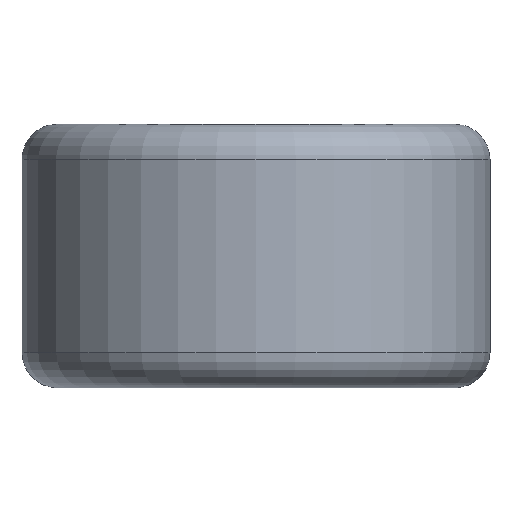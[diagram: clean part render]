
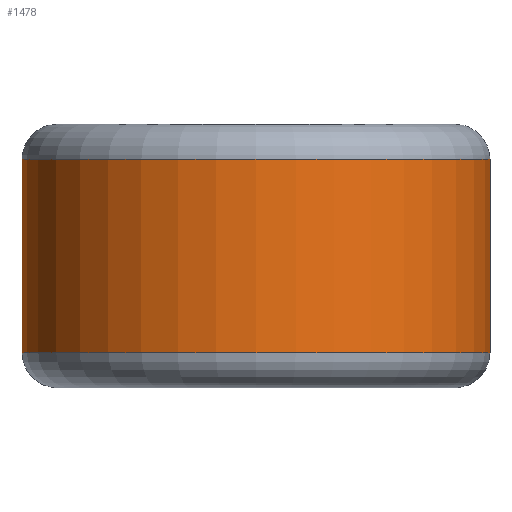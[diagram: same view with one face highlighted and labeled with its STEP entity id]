
A CAD part, left-side view. The second image highlights one B-rep face of the part: STEP entity #1478.
In plain terms, the highlighted cylindrical face has radius 8 mm (diameter 16 mm), a partial arc.
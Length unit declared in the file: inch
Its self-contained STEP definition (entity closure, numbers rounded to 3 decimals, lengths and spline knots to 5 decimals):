
#138=DIRECTION('',(0.,0.,-1.));
#139=VECTOR('',#138,0.15651);
#140=CARTESIAN_POINT('',(0.29182,0.1185,0.25542));
#141=LINE('',#140,#139);
#188=DIRECTION('',(0.,0.,1.));
#189=VECTOR('',#188,0.01194);
#190=CARTESIAN_POINT('',(0.29182,0.1185,0.08697));
#191=LINE('',#190,#189);
#192=CARTESIAN_POINT('',(0.29182,0.1185,0.26736));
#193=CARTESIAN_POINT('',(0.28622,0.13229,
0.272));
#194=CARTESIAN_POINT('',(0.2737,0.15754,
0.28057));
#195=CARTESIAN_POINT('',(0.25271,0.1891,
0.28953));
#196=CARTESIAN_POINT('',(0.23111,0.21475,
0.29417));
#197=CARTESIAN_POINT('',(0.20993,0.23533,
0.29475));
#198=CARTESIAN_POINT('',(0.18983,0.25172,
0.29174));
#199=CARTESIAN_POINT('',(0.17107,0.26474,
0.28556));
#200=CARTESIAN_POINT('',(0.15387,0.27503,
0.27652));
#201=CARTESIAN_POINT('',(0.13846,0.28305,
0.26485));
#202=CARTESIAN_POINT('',(0.1251,0.28915,
0.25075));
#203=CARTESIAN_POINT('',(0.11416,0.2936,
0.23448));
#204=CARTESIAN_POINT('',(0.10599,0.29662,
0.21643));
#205=CARTESIAN_POINT('',(0.10094,0.29835,
0.1971));
#206=CARTESIAN_POINT('',(0.09924,0.29892,
0.17711));
#207=CARTESIAN_POINT('',(0.10096,0.29835,
0.15711));
#208=CARTESIAN_POINT('',(0.10603,0.2966,
0.13779));
#209=CARTESIAN_POINT('',(0.11421,0.29358,
0.11975));
#210=CARTESIAN_POINT('',(0.12518,0.28912,
0.10349));
#211=CARTESIAN_POINT('',(0.13854,0.28301,
0.08941));
#212=CARTESIAN_POINT('',(0.15397,0.27497,
0.07775));
#213=CARTESIAN_POINT('',(0.17117,0.26467,
0.06872));
#214=CARTESIAN_POINT('',(0.18995,0.25163,
0.06256));
#215=CARTESIAN_POINT('',(0.21006,0.23522,
0.05957));
#216=CARTESIAN_POINT('',(0.23124,0.21461,
0.06018));
#217=CARTESIAN_POINT('',(0.25283,0.18894,
0.06484));
#218=CARTESIAN_POINT('',(0.27375,0.15746,
0.07379));
#219=CARTESIAN_POINT('',(0.28623,0.13226,
0.08234));
#220=CARTESIAN_POINT('',(0.29182,0.1185,0.08697));
#222=DIRECTION('',(0.,0.,1.));
#223=VECTOR('',#222,0.01194);
#224=CARTESIAN_POINT('',(0.29182,0.1185,0.25542));
#225=LINE('',#224,#223);
#226=CARTESIAN_POINT('',(0.,0.,0.04723));
#227=DIRECTION('',(0.,0.,-1.));
#228=DIRECTION('',(0.997,-0.075,0.));
#229=AXIS2_PLACEMENT_3D('',#226,#227,#228);
#231=DIRECTION('',(0.,0.,-1.));
#232=VECTOR('',#231,0.25987);
#233=CARTESIAN_POINT('',(0.31407,0.02362,
0.3071));
#234=LINE('',#233,#232);
#235=CARTESIAN_POINT('',(0.,0.,0.3071));
#236=DIRECTION('',(0.,0.,1.));
#237=DIRECTION('',(0.997,0.075,0.));
#238=AXIS2_PLACEMENT_3D('',#235,#236,#237);
#240=DIRECTION('',(0.,0.,1.));
#241=VECTOR('',#240,0.25987);
#242=CARTESIAN_POINT('',(0.31407,-0.02362,
0.04723));
#243=LINE('',#242,#241);
#244=CARTESIAN_POINT('',(0.217,-0.22828,0.22792));
#245=CARTESIAN_POINT('',(0.22108,-0.2244,
0.22792));
#246=CARTESIAN_POINT('',(0.22866,-0.21678,
0.22695));
#247=CARTESIAN_POINT('',(0.23845,-0.20593,
0.22352));
#248=CARTESIAN_POINT('',(0.24664,-0.196,
0.2187));
#249=CARTESIAN_POINT('',(0.2533,-0.18728,
0.21297));
#250=CARTESIAN_POINT('',(0.25859,-0.17988,
0.20662));
#251=CARTESIAN_POINT('',(0.26262,-0.17391,
0.19986));
#252=CARTESIAN_POINT('',(0.2655,-0.16946,
0.19276));
#253=CARTESIAN_POINT('',(0.26732,-0.16655,
0.18517));
#254=CARTESIAN_POINT('',(0.26796,-0.16552,
0.17711));
#255=CARTESIAN_POINT('',(0.2673,-0.16658,
0.16908));
#256=CARTESIAN_POINT('',(0.2655,-0.16946,
0.16157));
#257=CARTESIAN_POINT('',(0.26265,-0.17386,
0.15455));
#258=CARTESIAN_POINT('',(0.25866,-0.17977,
0.1478));
#259=CARTESIAN_POINT('',(0.25338,-0.18718,
0.14143));
#260=CARTESIAN_POINT('',(0.24668,-0.19595,
0.13566));
#261=CARTESIAN_POINT('',(0.23845,-0.20593,
0.13081));
#262=CARTESIAN_POINT('',(0.22863,-0.21681,
0.12737));
#263=CARTESIAN_POINT('',(0.22107,-0.22441,
0.12642));
#264=CARTESIAN_POINT('',(0.217,-0.22828,0.12642));
#826=CARTESIAN_POINT('',(0.217,-0.22828,0.22792));
#827=CARTESIAN_POINT('',(0.21295,-0.23213,
0.22792));
#828=CARTESIAN_POINT('',(0.20504,-0.23923,
0.22694));
#829=CARTESIAN_POINT('',(0.19439,-0.24792,
0.22305));
#830=CARTESIAN_POINT('',(0.18519,-0.25483,
0.21718));
#831=CARTESIAN_POINT('',(0.17771,-0.26007,
0.20984));
#832=CARTESIAN_POINT('',(0.17199,-0.26388,
0.20133));
#833=CARTESIAN_POINT('',(0.16813,-0.26633,
0.19201));
#834=CARTESIAN_POINT('',(0.16618,-0.26756,
0.18222));
#835=CARTESIAN_POINT('',(0.16616,-0.26756,
0.17227));
#836=CARTESIAN_POINT('',(0.16808,-0.26637,
0.16249));
#837=CARTESIAN_POINT('',(0.1719,-0.26393,
0.15317));
#838=CARTESIAN_POINT('',(0.1776,-0.26015,
0.14463));
#839=CARTESIAN_POINT('',(0.18507,-0.25492,
0.13724));
#840=CARTESIAN_POINT('',(0.1943,-0.24799,
0.13132));
#841=CARTESIAN_POINT('',(0.20499,-0.23927,
0.1274));
#842=CARTESIAN_POINT('',(0.21293,-0.23215,
0.12642));
#843=CARTESIAN_POINT('',(0.217,-0.22828,0.12642));
#902=CARTESIAN_POINT('',(0.29182,0.1185,0.25542));
#904=VERTEX_POINT('',#902);
#906=CARTESIAN_POINT('',(0.29182,0.1185,0.09891));
#907=VERTEX_POINT('',#906);
#926=CARTESIAN_POINT('',(0.217,-0.22828,0.12642));
#928=VERTEX_POINT('',#926);
#930=VERTEX_POINT('',#826);
#933=CARTESIAN_POINT('',(0.29182,0.1185,0.08697));
#934=VERTEX_POINT('',#933);
#935=CARTESIAN_POINT('',(0.29182,0.1185,0.26736));
#936=VERTEX_POINT('',#935);
#937=CARTESIAN_POINT('',(0.31407,-0.02362,
0.04723));
#938=CARTESIAN_POINT('',(0.31407,0.02362,
0.04723));
#939=VERTEX_POINT('',#937);
#940=VERTEX_POINT('',#938);
#941=CARTESIAN_POINT('',(0.31407,0.02362,
0.3071));
#942=VERTEX_POINT('',#941);
#943=CARTESIAN_POINT('',(0.31407,-0.02362,
0.3071));
#944=VERTEX_POINT('',#943);
#1450=CARTESIAN_POINT('',(0.,0.,0.35433));
#1451=DIRECTION('',(0.,0.,-1.));
#1452=DIRECTION('',(-1.,0.,0.));
#1453=AXIS2_PLACEMENT_3D('',#1450,#1451,#1452);
#1454=CYLINDRICAL_SURFACE('',#1453,0.31496);
#1456=ORIENTED_EDGE('',*,*,#1455,.T.);
#1458=ORIENTED_EDGE('',*,*,#1457,.F.);
#1460=ORIENTED_EDGE('',*,*,#1459,.T.);
#1462=ORIENTED_EDGE('',*,*,#1461,.F.);
#1463=EDGE_LOOP('',(#1456,#1458,#1460,#1462));
#1464=FACE_OUTER_BOUND('',#1463,.F.);
#1465=ORIENTED_EDGE('',*,*,#1272,.F.);
#1467=ORIENTED_EDGE('',*,*,#1466,.F.);
#1468=ORIENTED_EDGE('',*,*,#1268,.F.);
#1469=ORIENTED_EDGE('',*,*,#1310,.T.);
#1470=EDGE_LOOP('',(#1465,#1467,#1468,#1469));
#1471=FACE_BOUND('',#1470,.F.);
#1473=ORIENTED_EDGE('',*,*,#1472,.T.);
#1475=ORIENTED_EDGE('',*,*,#1474,.F.);
#1476=EDGE_LOOP('',(#1473,#1475));
#1477=FACE_BOUND('',#1476,.F.);
#221=B_SPLINE_CURVE_WITH_KNOTS('',3,(#192,#193,#194,#195,#196,#197,#198,#199,
#200,#201,#202,#203,#204,#205,#206,#207,#208,#209,#210,#211,#212,#213,#214,#215,
#216,#217,#218,#219,#220),.UNSPECIFIED.,.F.,.F.,(4,1,1,1,1,1,1,1,1,1,1,1,1,1,1,
1,1,1,1,1,1,1,1,1,1,1,4),(0.,0.03846,0.07692,
0.11538,0.15385,0.19231,0.23077,
0.26923,0.30769,0.34615,0.38462,
0.42308,0.46154,0.5,0.53846,0.57692,
0.61538,0.65385,0.69231,0.73077,
0.76923,0.80769,0.84615,0.88462,
0.92308,0.96154,1.),.UNSPECIFIED.);
#230=CIRCLE('',#229,0.31496);
#239=CIRCLE('',#238,0.31496);
#265=B_SPLINE_CURVE_WITH_KNOTS('',3,(#244,#245,#246,#247,#248,#249,#250,#251,
#252,#253,#254,#255,#256,#257,#258,#259,#260,#261,#262,#263,#264),.UNSPECIFIED.,
.F.,.F.,(4,1,1,1,1,1,1,1,1,1,1,1,1,1,1,1,1,1,4),(0.,0.05556,
0.11111,0.16667,0.22222,0.27778,
0.33333,0.38889,0.44444,0.5,0.55556,
0.61111,0.66667,0.72222,0.77778,
0.83333,0.88889,0.94444,1.),.UNSPECIFIED.);
#844=B_SPLINE_CURVE_WITH_KNOTS('',3,(#826,#827,#828,#829,#830,#831,#832,#833,
#834,#835,#836,#837,#838,#839,#840,#841,#842,#843),.UNSPECIFIED.,.F.,.F.,(4,1,1,
1,1,1,1,1,1,1,1,1,1,1,1,4),(0.,0.06667,0.13333,0.2,
0.26667,0.33333,0.4,0.46667,0.53333,
0.6,0.66667,0.73333,0.8,0.86667,
0.93333,1.),.UNSPECIFIED.);
#1268=EDGE_CURVE('',#904,#936,#225,.T.);
#1272=EDGE_CURVE('',#934,#907,#191,.T.);
#1310=EDGE_CURVE('',#904,#907,#141,.T.);
#1455=EDGE_CURVE('',#939,#940,#230,.T.);
#1457=EDGE_CURVE('',#942,#940,#234,.T.);
#1459=EDGE_CURVE('',#942,#944,#239,.T.);
#1461=EDGE_CURVE('',#939,#944,#243,.T.);
#1466=EDGE_CURVE('',#936,#934,#221,.T.);
#1472=EDGE_CURVE('',#930,#928,#844,.T.);
#1474=EDGE_CURVE('',#930,#928,#265,.T.);
#1478=ADVANCED_FACE('',(#1464,#1471,#1477),#1454,.T.);
